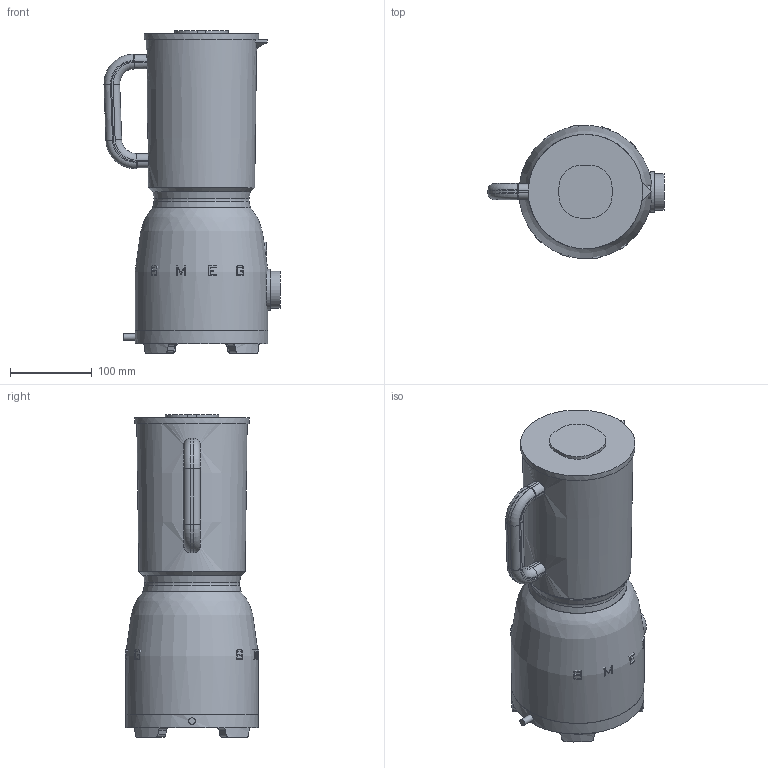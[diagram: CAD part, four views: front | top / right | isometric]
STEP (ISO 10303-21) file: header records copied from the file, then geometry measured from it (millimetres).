
FILE_DESCRIPTION(/* description */ (''),/* implementation_level */ '2;1');
FILE_NAME(/* name */ 'frullatore assieme.stp',/* time_stamp */ '2018-09-20T14:15:32+02:00',/* author */ (''),/* organization */ (''),/* preprocessor_version */ 'ST-DEVELOPER v16',/* originating_system */ 'SIEMENS PLM Software NX 11.0',/* authorisation */ '');
FILE_SCHEMA (('AUTOMOTIVE_DESIGN { 1 0 10303 214 3 1 1 1 }'));
Length unit declared in the file: millimetre
Products named in the file (1): gobb80D85F20cgq7
Bounding box: 215.29 x 163.27 x 394.9 mm (x, y, z)
Volume: 6268793.6 mm3; surface area: 331326.1 mm2
Topology: 15 solids, 15 shells, 257 faces, 627 edges, 403 vertices
Faces by surface type: plane 154, cylinder 61, extrusion 24, torus 13, cone 3, bspline 2
Full cylindrical faces by diameter (mm): 8 x1, 16 x1, 45 x1, 50 x1, 120 x2, 130 x1, 140 x1, 162 x1
Entity records: 9507 total; most frequent: CARTESIAN_POINT 3964, ORIENTED_EDGE 1210, DIRECTION 902, EDGE_CURVE 605, VERTEX_POINT 396, AXIS2_PLACEMENT_3D 334, B_SPLINE_CURVE_WITH_KNOTS 317, EDGE_LOOP 277
